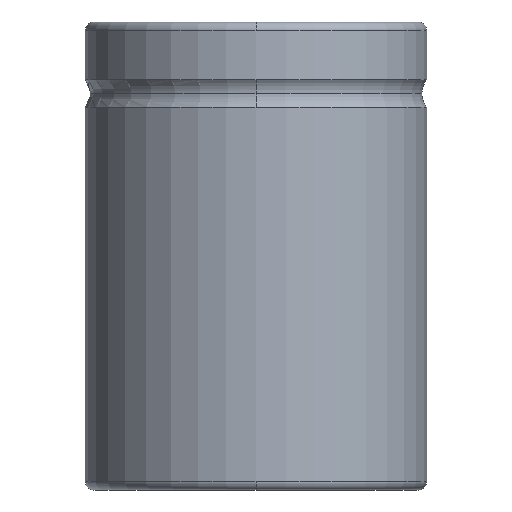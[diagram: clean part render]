
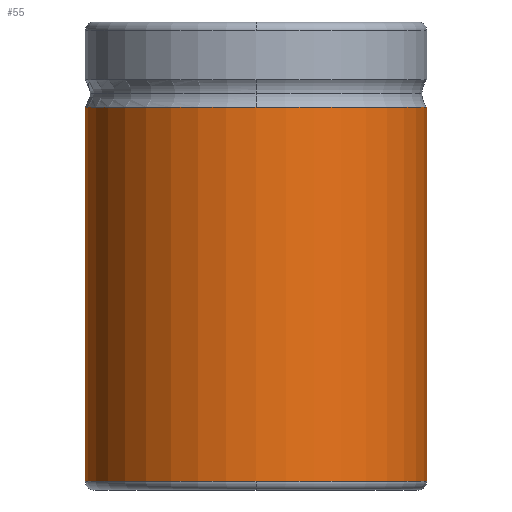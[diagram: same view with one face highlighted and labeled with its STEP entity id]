
A CAD part, left-side view. The second image highlights one B-rep face of the part: STEP entity #55.
In plain terms, the highlighted cylindrical face has radius 31 mm (diameter 62 mm), a partial arc.
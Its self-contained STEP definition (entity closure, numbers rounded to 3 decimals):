
#55=ADVANCED_FACE('',(#125),#126,.T.);
#125=FACE_OUTER_BOUND('',#211,.T.);
#126=CYLINDRICAL_SURFACE('',#212,31.0);
#211=EDGE_LOOP('',(#313,#314,#315,#316,#317,#318));
#212=AXIS2_PLACEMENT_3D('',#319,#320,#321);
#313=ORIENTED_EDGE('',*,*,#542,.F.);
#314=ORIENTED_EDGE('',*,*,#543,.T.);
#315=ORIENTED_EDGE('',*,*,#544,.T.);
#316=ORIENTED_EDGE('',*,*,#545,.F.);
#317=ORIENTED_EDGE('',*,*,#546,.F.);
#318=ORIENTED_EDGE('',*,*,#537,.F.);
#319=CARTESIAN_POINT('',(0.,0.,-42.5));
#320=DIRECTION('',(0.,0.,-1.0));
#321=DIRECTION('',(0.0,-1.0,0.));
#537=EDGE_CURVE('',#642,#644,#645,.T.);
#542=EDGE_CURVE('',#652,#642,#653,.T.);
#543=EDGE_CURVE('',#652,#654,#655,.T.);
#544=EDGE_CURVE('',#654,#656,#657,.T.);
#545=EDGE_CURVE('',#658,#656,#659,.T.);
#546=EDGE_CURVE('',#644,#658,#660,.T.);
#642=VERTEX_POINT('',#814);
#644=VERTEX_POINT('',#816);
#645=CIRCLE('',#817,31.0);
#652=VERTEX_POINT('',#824);
#653=LINE('',#825,#826);
#654=VERTEX_POINT('',#827);
#655=CIRCLE('',#828,31.0);
#656=VERTEX_POINT('',#829);
#657=CIRCLE('',#830,31.0);
#658=VERTEX_POINT('',#831);
#659=LINE('',#832,#833);
#660=CIRCLE('',#834,31.0);
#814=CARTESIAN_POINT('',(0.,-31.0,-83.45));
#816=CARTESIAN_POINT('',(-31.0,0.,-83.45));
#817=AXIS2_PLACEMENT_3D('',#1230,#1231,#1232);
#824=CARTESIAN_POINT('',(0.,-31.0,-15.497));
#825=CARTESIAN_POINT('',(0.,-31.0,-42.5));
#826=VECTOR('',#1242,1.0);
#827=CARTESIAN_POINT('',(-31.0,0.,-15.497));
#828=AXIS2_PLACEMENT_3D('',#1243,#1244,#1245);
#829=CARTESIAN_POINT('',(0.,31.0,-15.497));
#830=AXIS2_PLACEMENT_3D('',#1246,#1247,#1248);
#831=CARTESIAN_POINT('',(0.,31.0,-83.45));
#832=CARTESIAN_POINT('',(0.,31.0,-42.5));
#833=VECTOR('',#1249,1.0);
#834=AXIS2_PLACEMENT_3D('',#1250,#1251,#1252);
#1230=CARTESIAN_POINT('',(0.,0.,-83.45));
#1231=DIRECTION('',(0.,0.,-1.0));
#1232=DIRECTION('',(0.0,-1.0,0.));
#1242=DIRECTION('',(0.,0.,-1.0));
#1243=CARTESIAN_POINT('',(0.,0.,-15.497));
#1244=DIRECTION('',(0.,0.,-1.0));
#1245=DIRECTION('',(0.0,-1.0,0.));
#1246=CARTESIAN_POINT('',(0.,0.,-15.497));
#1247=DIRECTION('',(0.,0.,-1.0));
#1248=DIRECTION('',(0.0,-1.0,0.));
#1249=DIRECTION('',(0.,0.,1.0));
#1250=CARTESIAN_POINT('',(0.,0.,-83.45));
#1251=DIRECTION('',(0.,0.,-1.0));
#1252=DIRECTION('',(0.0,-1.0,0.));
